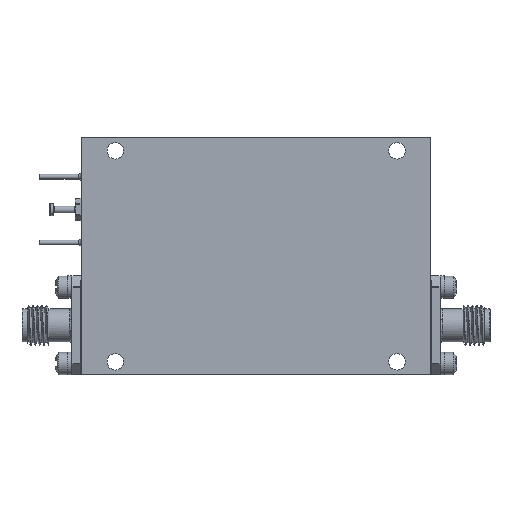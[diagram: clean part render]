
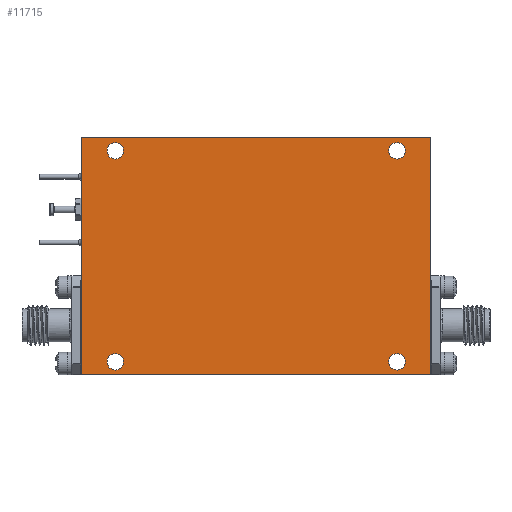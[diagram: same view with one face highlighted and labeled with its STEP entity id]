
A CAD part, front view. The second image highlights one B-rep face of the part: STEP entity #11715.
In plain terms, the highlighted planar face has unit normal (0, -1, 0).
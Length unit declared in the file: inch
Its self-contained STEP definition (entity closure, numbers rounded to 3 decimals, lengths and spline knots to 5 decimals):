
#981 = EDGE_CURVE ( 'NONE', #26740, #29256, #31758, .T. ) ;
#1019 = EDGE_CURVE ( 'NONE', #30664, #30664, #38282, .T. ) ;
#1773 = AXIS2_PLACEMENT_3D ( 'NONE', #40322, #24597, #31930 ) ;
#2341 = CARTESIAN_POINT ( 'NONE',  ( -0.887, -0.2, 0.715 ) ) ;
#2833 = ORIENTED_EDGE ( 'NONE', *, *, #18118, .T. ) ;
#3028 = EDGE_LOOP ( 'NONE', ( #2833 ) ) ;
#3403 = DIRECTION ( 'NONE',  ( 0., 0., 1. ) ) ;
#3781 = LINE ( 'NONE', #16359, #5070 ) ;
#5070 = VECTOR ( 'NONE', #29007, 39.37008 ) ;
#5381 = ORIENTED_EDGE ( 'NONE', *, *, #17180, .F. ) ;
#5628 = CARTESIAN_POINT ( 'NONE',  ( -0.887, -0.2, -0.667 ) ) ;
#6758 = DIRECTION ( 'NONE',  ( 0., 1., 0. ) ) ;
#6915 = CARTESIAN_POINT ( 'NONE',  ( 0.889, -0.2, -0.667 ) ) ;
#8069 = ORIENTED_EDGE ( 'NONE', *, *, #1019, .T. ) ;
#8092 = FACE_BOUND ( 'NONE', #16922, .T. ) ;
#8627 = VERTEX_POINT ( 'NONE', #36357 ) ;
#8861 = VECTOR ( 'NONE', #29751, 39.37008 ) ;
#9558 = EDGE_CURVE ( 'NONE', #26476, #26476, #9608, .T. ) ;
#9608 = CIRCLE ( 'NONE', #1773, 0.052 ) ;
#10847 = CARTESIAN_POINT ( 'NONE',  ( -1.1, -0.2, 0.75 ) ) ;
#11715 = ADVANCED_FACE ( 'NONE', ( #17195, #23842, #14057, #8092, #20710 ), #30425, .F. ) ;
#12050 = VECTOR ( 'NONE', #29212, 39.37008 ) ;
#12136 = CIRCLE ( 'NONE', #20112, 0.052 ) ;
#13657 = LINE ( 'NONE', #25941, #12050 ) ;
#14057 = FACE_BOUND ( 'NONE', #26663, .T. ) ;
#14803 = CARTESIAN_POINT ( 'NONE',  ( 1.1, -0.2, -0.75 ) ) ;
#15147 = ORIENTED_EDGE ( 'NONE', *, *, #23801, .F. ) ;
#15957 = CARTESIAN_POINT ( 'NONE',  ( 1.1, -0.2, -0.75 ) ) ;
#16048 = DIRECTION ( 'NONE',  ( 0., 0., 1. ) ) ;
#16125 = ORIENTED_EDGE ( 'NONE', *, *, #22499, .F. ) ;
#16359 = CARTESIAN_POINT ( 'NONE',  ( -1.1, -0.2, 0.75 ) ) ;
#16922 = EDGE_LOOP ( 'NONE', ( #33120 ) ) ;
#17180 = EDGE_CURVE ( 'NONE', #29256, #30724, #13657, .T. ) ;
#17195 = FACE_BOUND ( 'NONE', #3028, .T. ) ;
#17739 = LINE ( 'NONE', #14803, #8861 ) ;
#18031 = DIRECTION ( 'NONE',  ( 0., 1., 0. ) ) ;
#18118 = EDGE_CURVE ( 'NONE', #8627, #8627, #29262, .T. ) ;
#18425 = AXIS2_PLACEMENT_3D ( 'NONE', #28269, #40904, #3403 ) ;
#19341 = EDGE_CURVE ( 'NONE', #24601, #24601, #12136, .T. ) ;
#20112 = AXIS2_PLACEMENT_3D ( 'NONE', #5628, #18031, #30659 ) ;
#20138 = CARTESIAN_POINT ( 'NONE',  ( -1.1, -0.2, -0.75 ) ) ;
#20444 = CARTESIAN_POINT ( 'NONE',  ( 1.1, -0.2, 0.75 ) ) ;
#20710 = FACE_OUTER_BOUND ( 'NONE', #35846, .T. ) ;
#22011 = AXIS2_PLACEMENT_3D ( 'NONE', #35109, #6758, #16048 ) ;
#22457 = DIRECTION ( 'NONE',  ( 0., 0., 1. ) ) ;
#22482 = VERTEX_POINT ( 'NONE', #20444 ) ;
#22499 = EDGE_CURVE ( 'NONE', #22482, #26740, #17739, .T. ) ;
#22640 = CARTESIAN_POINT ( 'NONE',  ( -1.1, -0.2, -0.75 ) ) ;
#23338 = CARTESIAN_POINT ( 'NONE',  ( 0.889, -0.2, 0.715 ) ) ;
#23801 = EDGE_CURVE ( 'NONE', #30724, #22482, #3781, .T. ) ;
#23842 = FACE_BOUND ( 'NONE', #40803, .T. ) ;
#23999 = AXIS2_PLACEMENT_3D ( 'NONE', #6915, #40921, #22457 ) ;
#24452 = ORIENTED_EDGE ( 'NONE', *, *, #981, .F. ) ;
#24597 = DIRECTION ( 'NONE',  ( 0., 1., 0. ) ) ;
#24601 = VERTEX_POINT ( 'NONE', #33873 ) ;
#25941 = CARTESIAN_POINT ( 'NONE',  ( -1.1, -0.2, -0.75 ) ) ;
#26476 = VERTEX_POINT ( 'NONE', #23338 ) ;
#26663 = EDGE_LOOP ( 'NONE', ( #8069 ) ) ;
#26740 = VERTEX_POINT ( 'NONE', #15957 ) ;
#28269 = CARTESIAN_POINT ( 'NONE',  ( -0.887, -0.2, 0.663 ) ) ;
#29007 = DIRECTION ( 'NONE',  ( 1., 0., 0. ) ) ;
#29212 = DIRECTION ( 'NONE',  ( 0., 0., 1. ) ) ;
#29256 = VERTEX_POINT ( 'NONE', #20138 ) ;
#29262 = CIRCLE ( 'NONE', #23999, 0.052 ) ;
#29751 = DIRECTION ( 'NONE',  ( 0., 0., -1. ) ) ;
#30425 = PLANE ( 'NONE',  #22011 ) ;
#30659 = DIRECTION ( 'NONE',  ( 0., 0., 1. ) ) ;
#30664 = VERTEX_POINT ( 'NONE', #2341 ) ;
#30724 = VERTEX_POINT ( 'NONE', #10847 ) ;
#31153 = DIRECTION ( 'NONE',  ( -1., 0., 0. ) ) ;
#31190 = ORIENTED_EDGE ( 'NONE', *, *, #9558, .T. ) ;
#31758 = LINE ( 'NONE', #22640, #32965 ) ;
#31930 = DIRECTION ( 'NONE',  ( 0., 0., 1. ) ) ;
#32965 = VECTOR ( 'NONE', #31153, 39.37008 ) ;
#33120 = ORIENTED_EDGE ( 'NONE', *, *, #19341, .T. ) ;
#33873 = CARTESIAN_POINT ( 'NONE',  ( -0.887, -0.2, -0.615 ) ) ;
#35109 = CARTESIAN_POINT ( 'NONE',  ( 0., -0.2, 0. ) ) ;
#35846 = EDGE_LOOP ( 'NONE', ( #5381, #24452, #16125, #15147 ) ) ;
#36357 = CARTESIAN_POINT ( 'NONE',  ( 0.889, -0.2, -0.615 ) ) ;
#38282 = CIRCLE ( 'NONE', #18425, 0.052 ) ;
#40322 = CARTESIAN_POINT ( 'NONE',  ( 0.889, -0.2, 0.663 ) ) ;
#40803 = EDGE_LOOP ( 'NONE', ( #31190 ) ) ;
#40904 = DIRECTION ( 'NONE',  ( 0., 1., 0. ) ) ;
#40921 = DIRECTION ( 'NONE',  ( 0., 1., 0. ) ) ;
